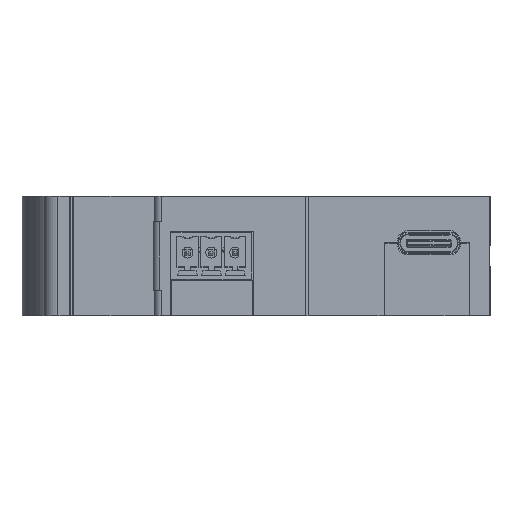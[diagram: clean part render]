
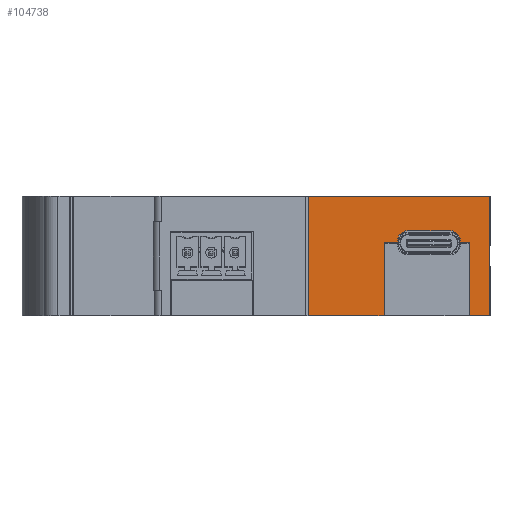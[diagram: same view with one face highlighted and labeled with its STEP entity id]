
A CAD part, left-side view. The second image highlights one B-rep face of the part: STEP entity #104738.
In plain terms, the highlighted planar face has unit normal (-1, 0, 0).
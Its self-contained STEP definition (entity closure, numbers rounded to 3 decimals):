
#637 = VECTOR ( 'NONE', #84500, 1000. ) ;
#899 = EDGE_CURVE ( 'NONE', #46261, #58154, #74803, .T. ) ;
#1474 = CARTESIAN_POINT ( 'NONE',  ( -50.734, -21.407, 129.755 ) ) ;
#2065 = VECTOR ( 'NONE', #60648, 1000. ) ;
#2763 = AXIS2_PLACEMENT_3D ( 'NONE', #124550, #83751, #61669 ) ;
#3282 = VERTEX_POINT ( 'NONE', #71118 ) ;
#4286 = VERTEX_POINT ( 'NONE', #57156 ) ;
#4427 = VERTEX_POINT ( 'NONE', #52072 ) ;
#4679 = VERTEX_POINT ( 'NONE', #65262 ) ;
#6384 = CARTESIAN_POINT ( 'NONE',  ( -50.734, -17.957, 117.255 ) ) ;
#6500 = CARTESIAN_POINT ( 'NONE',  ( -50.734, -19.957, 128.305 ) ) ;
#8280 = CARTESIAN_POINT ( 'NONE',  ( -50.734, -6.827, 117.255 ) ) ;
#8370 = DIRECTION ( 'NONE',  ( 0., 0., -1. ) ) ;
#9510 = LINE ( 'NONE', #61095, #134397 ) ;
#10683 = EDGE_CURVE ( 'NONE', #4679, #4286, #116695, .T. ) ;
#12912 = VERTEX_POINT ( 'NONE', #30379 ) ;
#13340 = CIRCLE ( 'NONE', #88063, 1.45 ) ;
#16148 = CARTESIAN_POINT ( 'NONE',  ( -50.734, -6.827, 134.855 ) ) ;
#17382 = DIRECTION ( 'NONE',  ( 0., 0., 1. ) ) ;
#17541 = VECTOR ( 'NONE', #80786, 1000. ) ;
#17716 = AXIS2_PLACEMENT_3D ( 'NONE', #18291, #19213, #29787 ) ;
#17721 = VECTOR ( 'NONE', #17382, 1000. ) ;
#18221 = EDGE_CURVE ( 'NONE', #3282, #4427, #45499, .T. ) ;
#18291 = CARTESIAN_POINT ( 'NONE',  ( -50.734, -27.707, 128.305 ) ) ;
#18390 = CARTESIAN_POINT ( 'NONE',  ( -50.734, -6.827, 134.855 ) ) ;
#19213 = DIRECTION ( 'NONE',  ( 1., 0., 0. ) ) ;
#19461 = PLANE ( 'NONE',  #2763 ) ;
#19814 = EDGE_CURVE ( 'NONE', #97445, #97078, #13340, .T. ) ;
#20670 = EDGE_CURVE ( 'NONE', #67419, #111895, #99781, .T. ) ;
#20983 = LINE ( 'NONE', #113874, #62027 ) ;
#21768 = LINE ( 'NONE', #52460, #2065 ) ;
#24866 = EDGE_CURVE ( 'NONE', #4427, #120847, #20983, .T. ) ;
#25350 = CARTESIAN_POINT ( 'NONE',  ( -50.734, -17.957, 128.055 ) ) ;
#29787 = DIRECTION ( 'NONE',  ( 0., 0., -1. ) ) ;
#30379 = CARTESIAN_POINT ( 'NONE',  ( -50.734, -29.157, 128.305 ) ) ;
#32097 = VECTOR ( 'NONE', #111590, 1000. ) ;
#32661 = EDGE_CURVE ( 'NONE', #117500, #4679, #65808, .T. ) ;
#36382 = CARTESIAN_POINT ( 'NONE',  ( -50.734, -17.957, 128.055 ) ) ;
#37387 = VECTOR ( 'NONE', #44938, 1000. ) ;
#37899 = EDGE_CURVE ( 'NONE', #3282, #4286, #112438, .T. ) ;
#42564 = ORIENTED_EDGE ( 'NONE', *, *, #91932, .T. ) ;
#42595 = EDGE_CURVE ( 'NONE', #58154, #111895, #9510, .T. ) ;
#44222 = FACE_OUTER_BOUND ( 'NONE', #52497, .T. ) ;
#44938 = DIRECTION ( 'NONE',  ( 0., -1., 0. ) ) ;
#45499 = LINE ( 'NONE', #71128, #17541 ) ;
#46261 = VERTEX_POINT ( 'NONE', #58145 ) ;
#47798 = EDGE_CURVE ( 'NONE', #74809, #97078, #21768, .T. ) ;
#49180 = ORIENTED_EDGE ( 'NONE', *, *, #37899, .T. ) ;
#49492 = CARTESIAN_POINT ( 'NONE',  ( -50.734, -29.157, 128.055 ) ) ;
#50064 = DIRECTION ( 'NONE',  ( 0., 1., 0. ) ) ;
#52072 = CARTESIAN_POINT ( 'NONE',  ( -50.734, -30.557, 128.055 ) ) ;
#52460 = CARTESIAN_POINT ( 'NONE',  ( -50.734, -6.827, 129.755 ) ) ;
#52497 = EDGE_LOOP ( 'NONE', ( #136356, #68597, #93402, #58245, #107581, #136029, #101379, #99624, #42564, #108541, #73484, #49180, #92342, #115147 ) ) ;
#52534 = DIRECTION ( 'NONE',  ( 0., 0., -1. ) ) ;
#53003 = CARTESIAN_POINT ( 'NONE',  ( -50.734, -21.407, 128.305 ) ) ;
#53514 = EDGE_CURVE ( 'NONE', #46261, #97445, #113031, .T. ) ;
#55966 = LINE ( 'NONE', #98318, #101934 ) ;
#57017 = DIRECTION ( 'NONE',  ( 0., 0., -1. ) ) ;
#57156 = CARTESIAN_POINT ( 'NONE',  ( -50.734, -33.527, 117.255 ) ) ;
#58145 = CARTESIAN_POINT ( 'NONE',  ( -50.734, -19.957, 128.055 ) ) ;
#58154 = VERTEX_POINT ( 'NONE', #36382 ) ;
#58245 = ORIENTED_EDGE ( 'NONE', *, *, #899, .F. ) ;
#60648 = DIRECTION ( 'NONE',  ( 0., 1., 0. ) ) ;
#60996 = CARTESIAN_POINT ( 'NONE',  ( -50.734, -19.957, 134.855 ) ) ;
#61095 = CARTESIAN_POINT ( 'NONE',  ( -50.734, -17.957, 128.055 ) ) ;
#61669 = DIRECTION ( 'NONE',  ( 0., 0., -1. ) ) ;
#62027 = VECTOR ( 'NONE', #50064, 1000. ) ;
#62564 = DIRECTION ( 'NONE',  ( 0., 0., -1. ) ) ;
#65262 = CARTESIAN_POINT ( 'NONE',  ( -50.734, -33.527, 134.855 ) ) ;
#65808 = LINE ( 'NONE', #18390, #118423 ) ;
#67356 = VECTOR ( 'NONE', #52534, 1000. ) ;
#67419 = VERTEX_POINT ( 'NONE', #8280 ) ;
#68597 = ORIENTED_EDGE ( 'NONE', *, *, #20670, .T. ) ;
#69389 = CARTESIAN_POINT ( 'NONE',  ( -50.734, -6.827, 134.855 ) ) ;
#70133 = EDGE_CURVE ( 'NONE', #74809, #12912, #95809, .T. ) ;
#71118 = CARTESIAN_POINT ( 'NONE',  ( -50.734, -30.557, 117.255 ) ) ;
#71128 = CARTESIAN_POINT ( 'NONE',  ( -50.734, -30.557, 128.055 ) ) ;
#73484 = ORIENTED_EDGE ( 'NONE', *, *, #18221, .F. ) ;
#74803 = LINE ( 'NONE', #25350, #32097 ) ;
#74809 = VERTEX_POINT ( 'NONE', #96479 ) ;
#80786 = DIRECTION ( 'NONE',  ( 0., 0., 1. ) ) ;
#83751 = DIRECTION ( 'NONE',  ( 1., 0., 0. ) ) ;
#84500 = DIRECTION ( 'NONE',  ( 0., -1., 0. ) ) ;
#86269 = CARTESIAN_POINT ( 'NONE',  ( -50.734, -6.827, 117.255 ) ) ;
#88063 = AXIS2_PLACEMENT_3D ( 'NONE', #53003, #126380, #62564 ) ;
#91932 = EDGE_CURVE ( 'NONE', #12912, #120847, #55966, .T. ) ;
#92342 = ORIENTED_EDGE ( 'NONE', *, *, #10683, .F. ) ;
#93402 = ORIENTED_EDGE ( 'NONE', *, *, #42595, .F. ) ;
#95809 = CIRCLE ( 'NONE', #17716, 1.45 ) ;
#96479 = CARTESIAN_POINT ( 'NONE',  ( -50.734, -27.707, 129.755 ) ) ;
#97078 = VERTEX_POINT ( 'NONE', #1474 ) ;
#97445 = VERTEX_POINT ( 'NONE', #6500 ) ;
#98318 = CARTESIAN_POINT ( 'NONE',  ( -50.734, -29.157, 134.855 ) ) ;
#99624 = ORIENTED_EDGE ( 'NONE', *, *, #70133, .T. ) ;
#99781 = LINE ( 'NONE', #117517, #37387 ) ;
#100180 = DIRECTION ( 'NONE',  ( 0., 0., -1. ) ) ;
#101379 = ORIENTED_EDGE ( 'NONE', *, *, #47798, .F. ) ;
#101934 = VECTOR ( 'NONE', #57017, 1000. ) ;
#102422 = EDGE_CURVE ( 'NONE', #117500, #67419, #106082, .T. ) ;
#104738 = ADVANCED_FACE ( 'NONE', ( #44222 ), #19461, .F. ) ;
#106082 = LINE ( 'NONE', #16148, #115971 ) ;
#107581 = ORIENTED_EDGE ( 'NONE', *, *, #53514, .T. ) ;
#108541 = ORIENTED_EDGE ( 'NONE', *, *, #24866, .F. ) ;
#111590 = DIRECTION ( 'NONE',  ( 0., 1., 0. ) ) ;
#111895 = VERTEX_POINT ( 'NONE', #6384 ) ;
#112438 = LINE ( 'NONE', #86269, #637 ) ;
#113031 = LINE ( 'NONE', #60996, #17721 ) ;
#113874 = CARTESIAN_POINT ( 'NONE',  ( -50.734, -17.957, 128.055 ) ) ;
#115147 = ORIENTED_EDGE ( 'NONE', *, *, #32661, .F. ) ;
#115971 = VECTOR ( 'NONE', #100180, 1000. ) ;
#116695 = LINE ( 'NONE', #116747, #67356 ) ;
#116747 = CARTESIAN_POINT ( 'NONE',  ( -50.734, -33.527, 134.855 ) ) ;
#117500 = VERTEX_POINT ( 'NONE', #69389 ) ;
#117517 = CARTESIAN_POINT ( 'NONE',  ( -50.734, -6.827, 117.255 ) ) ;
#118423 = VECTOR ( 'NONE', #133232, 1000. ) ;
#120847 = VERTEX_POINT ( 'NONE', #49492 ) ;
#124550 = CARTESIAN_POINT ( 'NONE',  ( -50.734, -6.827, 134.855 ) ) ;
#126380 = DIRECTION ( 'NONE',  ( 1., 0., 0. ) ) ;
#133232 = DIRECTION ( 'NONE',  ( 0., -1., 0. ) ) ;
#134397 = VECTOR ( 'NONE', #8370, 1000. ) ;
#136029 = ORIENTED_EDGE ( 'NONE', *, *, #19814, .T. ) ;
#136356 = ORIENTED_EDGE ( 'NONE', *, *, #102422, .T. ) ;
